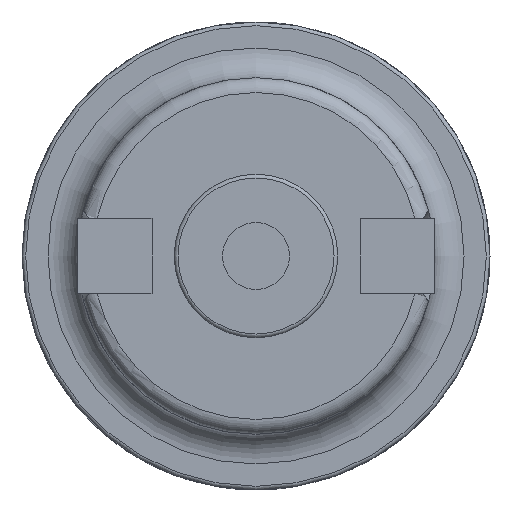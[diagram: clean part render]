
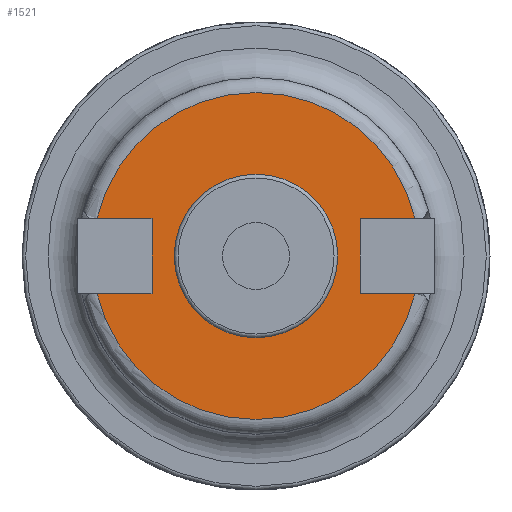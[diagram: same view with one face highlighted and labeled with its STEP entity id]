
A CAD part, front view. The second image highlights one B-rep face of the part: STEP entity #1521.
In plain terms, the highlighted planar face has unit normal (0, -1, 0).
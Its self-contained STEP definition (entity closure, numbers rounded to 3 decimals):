
#82=FACE_BOUND('',#542,.T.);
#109=LINE('',#2191,#232);
#119=LINE('',#2290,#242);
#142=LINE('',#2568,#265);
#147=LINE('',#2660,#270);
#170=LINE('',#2721,#293);
#173=LINE('',#2728,#296);
#174=LINE('',#2730,#297);
#175=LINE('',#2732,#298);
#176=LINE('',#2734,#299);
#177=LINE('',#2735,#300);
#232=VECTOR('',#1744,10.);
#242=VECTOR('',#1770,10.);
#265=VECTOR('',#1897,10.);
#270=VECTOR('',#1910,10.);
#293=VECTOR('',#1971,10.);
#296=VECTOR('',#1976,10.);
#297=VECTOR('',#1979,10.);
#298=VECTOR('',#1980,10.);
#299=VECTOR('',#1981,10.);
#300=VECTOR('',#1982,10.);
#376=PLANE('',#1674);
#448=FACE_OUTER_BOUND('',#541,.T.);
#541=EDGE_LOOP('',(#1262,#1263,#1264,#1265,#1266,#1267,#1268,#1269,#1270,
#1271,#1272,#1273));
#542=EDGE_LOOP('',(#1274));
#589=CIRCLE('',#1588,22.);
#593=CIRCLE('',#1596,22.);
#602=CIRCLE('',#1612,11.);
#681=VERTEX_POINT('',#2169);
#682=VERTEX_POINT('',#2176);
#685=VERTEX_POINT('',#2189);
#697=VERTEX_POINT('',#2268);
#698=VERTEX_POINT('',#2275);
#701=VERTEX_POINT('',#2288);
#708=VERTEX_POINT('',#2312);
#749=VERTEX_POINT('',#2567);
#752=VERTEX_POINT('',#2659);
#771=VERTEX_POINT('',#2720);
#774=VERTEX_POINT('',#2726);
#775=VERTEX_POINT('',#2731);
#776=VERTEX_POINT('',#2733);
#823=EDGE_CURVE('',#681,#682,#589,.T.);
#828=EDGE_CURVE('',#681,#685,#109,.T.);
#844=EDGE_CURVE('',#697,#698,#593,.T.);
#849=EDGE_CURVE('',#697,#701,#119,.T.);
#859=EDGE_CURVE('',#708,#708,#602,.T.);
#914=EDGE_CURVE('',#749,#698,#142,.T.);
#921=EDGE_CURVE('',#752,#682,#147,.T.);
#950=EDGE_CURVE('',#771,#749,#170,.T.);
#954=EDGE_CURVE('',#685,#774,#173,.T.);
#955=EDGE_CURVE('',#774,#771,#174,.T.);
#956=EDGE_CURVE('',#701,#775,#175,.T.);
#957=EDGE_CURVE('',#775,#776,#176,.T.);
#958=EDGE_CURVE('',#776,#752,#177,.T.);
#1262=ORIENTED_EDGE('',*,*,#823,.F.);
#1263=ORIENTED_EDGE('',*,*,#828,.T.);
#1264=ORIENTED_EDGE('',*,*,#954,.T.);
#1265=ORIENTED_EDGE('',*,*,#955,.T.);
#1266=ORIENTED_EDGE('',*,*,#950,.T.);
#1267=ORIENTED_EDGE('',*,*,#914,.T.);
#1268=ORIENTED_EDGE('',*,*,#844,.F.);
#1269=ORIENTED_EDGE('',*,*,#849,.T.);
#1270=ORIENTED_EDGE('',*,*,#956,.T.);
#1271=ORIENTED_EDGE('',*,*,#957,.T.);
#1272=ORIENTED_EDGE('',*,*,#958,.T.);
#1273=ORIENTED_EDGE('',*,*,#921,.T.);
#1274=ORIENTED_EDGE('',*,*,#859,.T.);
#1521=ADVANCED_FACE('',(#448,#82),#376,.T.);
#1588=AXIS2_PLACEMENT_3D('',#2177,#1737,#1738);
#1596=AXIS2_PLACEMENT_3D('',#2276,#1763,#1764);
#1612=AXIS2_PLACEMENT_3D('',#2313,#1800,#1801);
#1674=AXIS2_PLACEMENT_3D('',#2729,#1977,#1978);
#1737=DIRECTION('center_axis',(0.,1.,0.));
#1738=DIRECTION('ref_axis',(0.,0.,
-1.));
#1744=DIRECTION('',(-1.,0.,0.));
#1763=DIRECTION('center_axis',(0.,1.,0.));
#1764=DIRECTION('ref_axis',(0.,0.,
1.));
#1770=DIRECTION('',(1.,0.,0.));
#1800=DIRECTION('center_axis',(0.,1.,0.));
#1801=DIRECTION('ref_axis',(1.,0.,0.));
#1897=DIRECTION('',(1.,0.,0.));
#1910=DIRECTION('',(-1.,0.,0.));
#1971=DIRECTION('',(0.,0.,1.));
#1976=DIRECTION('',(0.,0.,1.));
#1977=DIRECTION('center_axis',(0.,-1.,0.));
#1978=DIRECTION('ref_axis',(0.,0.,-1.));
#1979=DIRECTION('',(0.,0.,1.));
#1980=DIRECTION('',(0.,0.,-1.));
#1981=DIRECTION('',(0.,0.,-1.));
#1982=DIRECTION('',(0.,0.,-1.));
#2169=CARTESIAN_POINT('',(21.401,18.,-5.1));
#2176=CARTESIAN_POINT('',(-21.401,18.,-5.1));
#2177=CARTESIAN_POINT('Origin',(0.,18.,0.));
#2189=CARTESIAN_POINT('',(14.,18.,-5.1));
#2191=CARTESIAN_POINT('',(24.,18.,-5.1));
#2268=CARTESIAN_POINT('',(-21.401,18.,5.1));
#2275=CARTESIAN_POINT('',(21.401,18.,5.1));
#2276=CARTESIAN_POINT('Origin',(0.,18.,0.));
#2288=CARTESIAN_POINT('',(-14.,18.,5.1));
#2290=CARTESIAN_POINT('',(0.,18.,5.1));
#2312=CARTESIAN_POINT('',(-11.,18.,0.));
#2313=CARTESIAN_POINT('Origin',(0.,18.,0.));
#2567=CARTESIAN_POINT('',(14.,18.,5.1));
#2568=CARTESIAN_POINT('',(24.,18.,5.1));
#2659=CARTESIAN_POINT('',(-14.,18.,-5.1));
#2660=CARTESIAN_POINT('',(0.,18.,-5.1));
#2720=CARTESIAN_POINT('',(14.,18.,5.));
#2721=CARTESIAN_POINT('',(14.,18.,0.));
#2726=CARTESIAN_POINT('',(14.,18.,-5.));
#2728=CARTESIAN_POINT('',(14.,18.,0.));
#2729=CARTESIAN_POINT('Origin',(24.,18.,0.));
#2730=CARTESIAN_POINT('',(14.,18.,0.));
#2731=CARTESIAN_POINT('',(-14.,18.,5.));
#2732=CARTESIAN_POINT('',(-14.,18.,0.));
#2733=CARTESIAN_POINT('',(-14.,18.,-5.));
#2734=CARTESIAN_POINT('',(-14.,18.,0.));
#2735=CARTESIAN_POINT('',(-14.,18.,0.));
